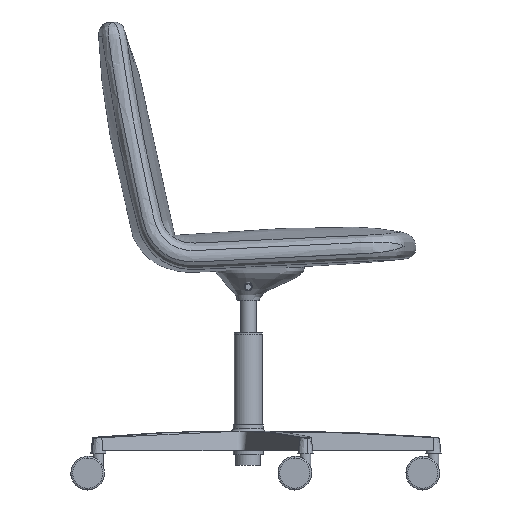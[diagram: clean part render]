
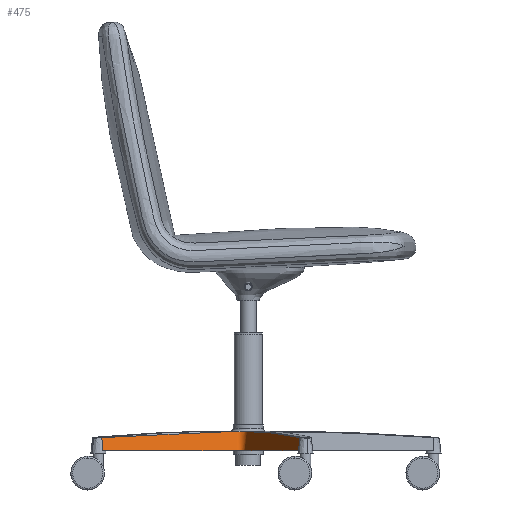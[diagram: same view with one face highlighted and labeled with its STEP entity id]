
A CAD part, left-side view. The second image highlights one B-rep face of the part: STEP entity #475.
In plain terms, the highlighted free-form (B-spline) face has degree [1, 2] with [2, 9] control points.
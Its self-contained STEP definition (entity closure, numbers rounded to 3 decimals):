
#30=(
BOUNDED_CURVE()
B_SPLINE_CURVE(2,(#9337,#9338,#9339,#9340,#9341,#9342,#9343,#9344,#9345),
 .UNSPECIFIED.,.F.,.F.)
B_SPLINE_CURVE_WITH_KNOTS((3,2,2,2,3),(0.,291.287,304.227,
317.167,608.455),.UNSPECIFIED.)
CURVE()
GEOMETRIC_REPRESENTATION_ITEM()
RATIONAL_B_SPLINE_CURVE((1.,1.,1.,0.895,1.,0.895,
1.,1.,1.))
REPRESENTATION_ITEM('')
);
#31=(
BOUNDED_CURVE()
B_SPLINE_CURVE(1,(#9346,#9347),.UNSPECIFIED.,.F.,.F.)
B_SPLINE_CURVE_WITH_KNOTS((2,2),(-35.284,-11.76),
 .UNSPECIFIED.)
CURVE()
GEOMETRIC_REPRESENTATION_ITEM()
RATIONAL_B_SPLINE_CURVE((1.,1.))
REPRESENTATION_ITEM('')
);
#60=(
BOUNDED_CURVE()
B_SPLINE_CURVE(1,(#9457,#9458),.UNSPECIFIED.,.F.,.F.)
B_SPLINE_CURVE_WITH_KNOTS((2,2),(11.76,35.284),
 .UNSPECIFIED.)
CURVE()
GEOMETRIC_REPRESENTATION_ITEM()
RATIONAL_B_SPLINE_CURVE((1.,1.))
REPRESENTATION_ITEM('')
);
#278=(
BOUNDED_SURFACE()
B_SPLINE_SURFACE(1,2,((#8596,#8597,#8598,#8599,#8600,#8601,#8602,#8603,
#8604),(#8605,#8606,#8607,#8608,#8609,#8610,#8611,#8612,#8613)),
 .UNSPECIFIED.,.F.,.F.,.F.)
B_SPLINE_SURFACE_WITH_KNOTS((2,2),(3,2,2,2,3),(0.,35.284),(0.,
291.287,304.227,317.167,608.455),
 .UNSPECIFIED.)
GEOMETRIC_REPRESENTATION_ITEM()
RATIONAL_B_SPLINE_SURFACE(((1.,1.,1.,0.895,1.,0.895,
1.,1.,1.),(1.,1.,1.,0.895,1.,0.895,1.,1.,1.)))
REPRESENTATION_ITEM('')
SURFACE()
);
#475=ADVANCED_FACE('',(#632),#278,.T.);
#632=FACE_OUTER_BOUND('',#789,.T.);
#789=EDGE_LOOP('',(#996,#997,#998,#999));
#996=ORIENTED_EDGE('',*,*,#1570,.T.);
#997=ORIENTED_EDGE('',*,*,#1540,.T.);
#998=ORIENTED_EDGE('',*,*,#1541,.T.);
#999=ORIENTED_EDGE('',*,*,#1576,.F.);
#1540=EDGE_CURVE('',#1863,#1864,#30,.T.);
#1541=EDGE_CURVE('',#1864,#1895,#31,.T.);
#1570=EDGE_CURVE('',#1894,#1863,#60,.T.);
#1576=EDGE_CURVE('',#1894,#1895,#2108,.T.);
#1863=VERTEX_POINT('',#9276);
#1864=VERTEX_POINT('',#9277);
#1894=VERTEX_POINT('',#9307);
#1895=VERTEX_POINT('',#9308);
#2108=B_SPLINE_CURVE_WITH_KNOTS('',3,(#9486,#9487,#9488,#9489,#9490,#9491,
#9492,#9493,#9494,#9495,#9496,#9497,#9498,#9499,#9500,#9501,#9502,#9503,
#9504,#9505,#9506,#9507),.UNSPECIFIED.,.F.,.F.,(4,3,1,3,1,1,1,3,1,1,3,4),
(-0.072,-0.071,181.604,291.478,
298.304,305.233,312.161,318.988,396.785,
504.749,610.537,610.537),.UNSPECIFIED.);
#8596=CARTESIAN_POINT('',(-201.208,261.626,105.));
#8597=CARTESIAN_POINT('',(-117.757,142.261,105.));
#8598=CARTESIAN_POINT('',(-34.306,22.897,105.));
#8599=CARTESIAN_POINT('',(-30.31,17.181,105.));
#8600=CARTESIAN_POINT('',(-32.465,10.549,105.));
#8601=CARTESIAN_POINT('',(-34.62,3.916,105.));
#8602=CARTESIAN_POINT('',(-41.212,1.641,105.));
#8603=CARTESIAN_POINT('',(-178.887,-45.876,105.));
#8604=CARTESIAN_POINT('',(-316.561,-93.393,105.));
#8605=CARTESIAN_POINT('',(-204.486,259.334,70.));
#8606=CARTESIAN_POINT('',(-121.035,139.97,70.));
#8607=CARTESIAN_POINT('',(-37.584,20.605,70.));
#8608=CARTESIAN_POINT('',(-34.73,16.522,70.));
#8609=CARTESIAN_POINT('',(-36.269,11.785,70.));
#8610=CARTESIAN_POINT('',(-37.809,7.047,70.));
#8611=CARTESIAN_POINT('',(-42.517,5.422,70.));
#8612=CARTESIAN_POINT('',(-180.192,-42.095,70.));
#8613=CARTESIAN_POINT('',(-317.866,-89.612,70.));
#9276=CARTESIAN_POINT('',(-204.486,259.334,70.));
#9277=CARTESIAN_POINT('',(-317.866,-89.612,70.));
#9307=CARTESIAN_POINT('',(-202.301,260.862,93.334));
#9308=CARTESIAN_POINT('',(-316.996,-92.133,93.334));
#9337=CARTESIAN_POINT('',(-204.486,259.334,70.));
#9338=CARTESIAN_POINT('',(-121.035,139.97,70.));
#9339=CARTESIAN_POINT('',(-37.584,20.605,70.));
#9340=CARTESIAN_POINT('',(-34.73,16.522,70.));
#9341=CARTESIAN_POINT('',(-36.269,11.785,70.));
#9342=CARTESIAN_POINT('',(-37.809,7.047,70.));
#9343=CARTESIAN_POINT('',(-42.517,5.422,70.));
#9344=CARTESIAN_POINT('',(-180.192,-42.095,70.));
#9345=CARTESIAN_POINT('',(-317.866,-89.612,70.));
#9346=CARTESIAN_POINT('',(-317.866,-89.612,70.));
#9347=CARTESIAN_POINT('',(-316.996,-92.133,93.334));
#9457=CARTESIAN_POINT('',(-202.301,260.862,93.334));
#9458=CARTESIAN_POINT('',(-204.486,259.334,70.));
#9486=CARTESIAN_POINT('',(-202.301,260.862,93.334));
#9487=CARTESIAN_POINT('',(-202.301,260.862,93.334));
#9488=CARTESIAN_POINT('',(-202.301,260.862,93.334));
#9489=CARTESIAN_POINT('',(-202.301,260.862,93.334));
#9490=CARTESIAN_POINT('',(-167.261,211.696,98.113));
#9491=CARTESIAN_POINT('',(-111.215,132.382,102.384));
#9492=CARTESIAN_POINT('',(-55.405,52.834,103.787));
#9493=CARTESIAN_POINT('',(-34.4,22.83,103.99));
#9494=CARTESIAN_POINT('',(-33.181,21.092,104.003));
#9495=CARTESIAN_POINT('',(-31.548,17.014,104.025));
#9496=CARTESIAN_POINT('',(-32.082,10.424,104.037));
#9497=CARTESIAN_POINT('',(-35.523,4.779,104.025));
#9498=CARTESIAN_POINT('',(-39.242,2.439,104.003));
#9499=CARTESIAN_POINT('',(-41.25,1.75,103.99));
#9500=CARTESIAN_POINT('',(-65.769,-6.695,103.843));
#9501=CARTESIAN_POINT('',(-124.325,-26.817,103.113));
#9502=CARTESIAN_POINT('',(-216.263,-58.203,100.26));
#9503=CARTESIAN_POINT('',(-283.664,-80.967,96.135));
#9504=CARTESIAN_POINT('',(-316.996,-92.133,93.334));
#9505=CARTESIAN_POINT('',(-316.996,-92.133,93.334));
#9506=CARTESIAN_POINT('',(-316.996,-92.133,93.334));
#9507=CARTESIAN_POINT('',(-316.996,-92.133,93.334));
